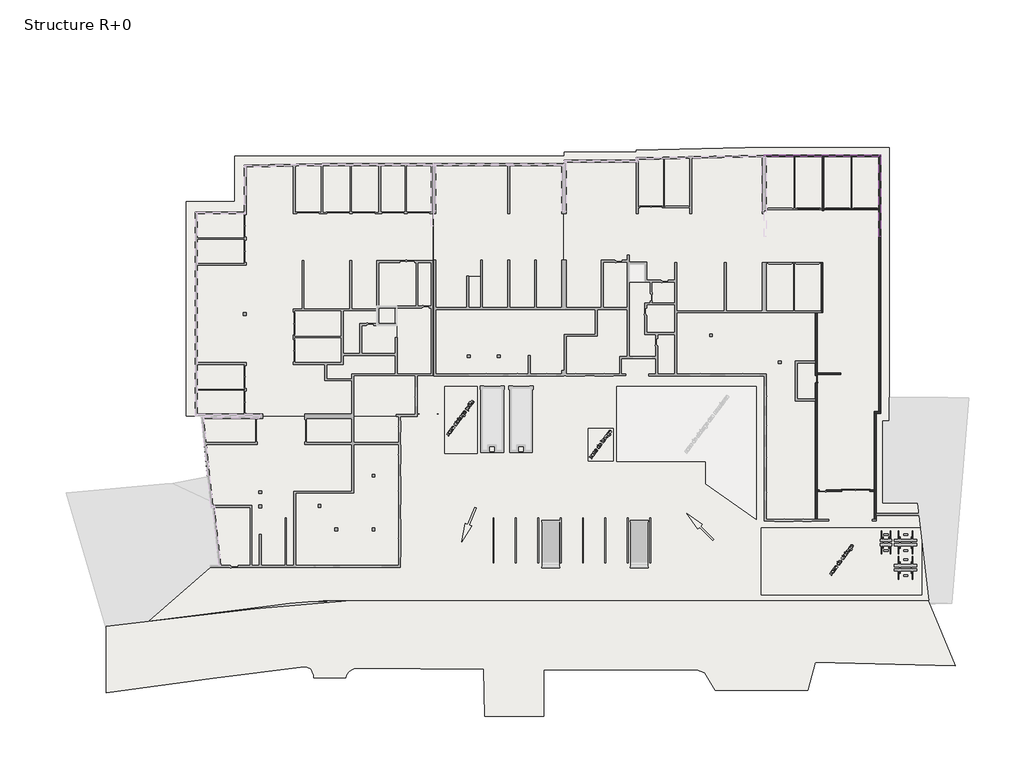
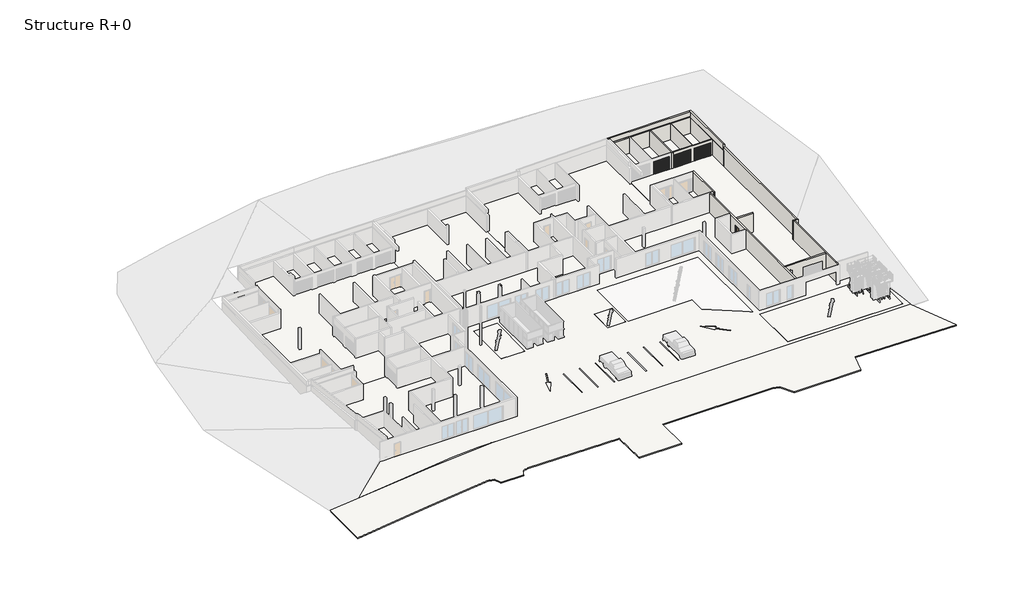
# One storey, part 5 of 8: 16 slabs, 14 walls, 4 doors.
"""IFC4 building model written with IfcOpenShell, lengths in millimetres."""

from ifc_helpers import new_model, si_unit, point, frame, frame_2d, origin, origin_with_axes, place, context, project, spatial, polyline, circle_curve, trimmed, segment, composite_curve, outline, extrude, faceted_brep, transform, mapped, element, save
from ifc_brep_helpers import plane_surface, cylinder_surface, revolved_surface, advanced_brep
from components import door_2_4m_x_2m_ca442cef, hb_simple_830_x_2040_mm_5aab85cf

model = new_model("IFC4")

# Units and contexts
model_context = context("Model", 3, world=origin())
ifc_project = project(units=[si_unit("LENGTHUNIT", "METRE", prefix="MILLI")], contexts=[model_context])

# Site, building, storey
site = spatial("IfcSite", under=ifc_project)
building = spatial("IfcBuilding", under=site)
storey = spatial("IfcBuildingStorey", under=building, Name="Structure R+0", Elevation=0.0)

# Doors
placement = place(None, origin())
door_2_4m_x_2m_shape = door_2_4m_x_2m_ca442cef(model_context)
element("IfcDoor", 1, ObjectType="Garage basculante : 2.4m x 2m", at=placement, inside=storey, context=model_context, shape_type="MappedRepresentation", body=[
    mapped(door_2_4m_x_2m_shape, transform((67185.0379909, 31982.2354102, 0.0), x_axis=(-1.0, 0.0, 0.0), y_axis=(0.0, -1.0, 0.0), z_axis=(0.0, 0.0, 1.0))),
])
element("IfcDoor", 2, ObjectType="Garage basculante : 2.4m x 2m", at=placement, inside=storey, context=model_context, shape_type="MappedRepresentation", body=[
    mapped(door_2_4m_x_2m_shape, transform((70159.5680431, 31982.2354102, 0.0), x_axis=(-1.0, 0.0, 0.0), y_axis=(0.0, -1.0, 0.0), z_axis=(0.0, 0.0, 1.0))),
])
element("IfcDoor", 3, ObjectType="Garage basculante : 2.4m x 2m", at=placement, inside=storey, context=model_context, shape_type="MappedRepresentation", body=[
    mapped(door_2_4m_x_2m_shape, transform((64052.7977519, 31982.2354102, 0.0), x_axis=(-1.0, 0.0, 0.0), y_axis=(0.0, -1.0, 0.0), z_axis=(0.0, 0.0, 1.0))),
])
hb_simple_830_x_2040_mm_shape = hb_simple_830_x_2040_mm_5aab85cf(model_context)
element("IfcDoor", 4, ObjectType="HB-Simple : 830 x 2040 mm", at=placement, inside=storey, context=model_context, shape_type="MappedRepresentation", body=[
    mapped(hb_simple_830_x_2040_mm_shape, transform((64912.3933514, 14061.6841597, 0.0), x_axis=(0.0, 1.0, 0.0), y_axis=(-1.0, 0.0, 0.0), z_axis=(0.0, 0.0, 1.0))),
])

# Slabs
element("IfcSlab", 5, ObjectType="Terre-plein Béton - 1", at=placement, inside=storey, context=model_context, shape_type="AdvancedBrep", body=[
    advanced_brep(
    [(-1045.6878974, 10125.4652425, -10.0), (-2683.0020232, 10125.4652425, -10.0), (-2683.0020232, 33132.4734178, -10.0), (2556.9078335, 33132.4734178, -10.0), (2556.9078335, 38014.9531321, -10.0), (37857.1696751, 38014.9531321, -10.0), (37857.1696751, 38419.915437, -10.0), (45579.8951342, 38419.915437, -10.0), (45579.8951342, 38681.4180541, -10.0), (57286.9614412, 38925.8125552, -10.0), (72718.498036, 38925.8125552, -10.0), (72718.498036, 9594.8529282, -10.0), (72017.0236897, 9594.8529282, -10.0), (72017.0236897, 831.008028, -10.0), (75763.9236591, 831.008028, -10.0), (77043.7192501, -9697.3958204, -10.0), (27043.7192501, -9697.3958204, -10.0), (18737.2090131, -9739.2310719, -10.0), (14472.6393717, -9716.4279563, -10.0), (6409.3035441, -10217.221694, -10.0), (-6711.7369842, -11924.6613357, -10.0), (-84.079262, -6105.1620119, -10.0), (840.2479411, -6105.1620119, -10.0), (162.7145278, 341.1378118, -10.0), (-17.3136452, 341.1378118, -10.0), (19929.9333488, 21916.9971343, -10.0), (17765.1211572, 21916.9971343, -10.0), (17765.1211572, 19864.6534315, -10.0), (19929.9333488, 19864.6534315, -10.0), (46707.3903862, 26657.7796483, -10.0), (44657.2462422, 26657.7796483, -10.0), (44657.2462422, 24500.9913711, -10.0), (46707.3903862, 24500.9913711, -10.0), (-2683.0020232, 10125.4652425, 0.0), (-1045.6878974, 10125.4652425, 0.0), (-17.3136452, 341.1378118, 0.0), (162.7145278, 341.1378118, 0.0), (840.2479411, -6105.1620119, 0.0), (-84.079262, -6105.1620119, 0.0), (-6711.7369842, -11924.6613357, 0.0), (6409.3035441, -10217.221694, 0.0), (14472.6393717, -9716.4279563, 0.0), (18737.2090131, -9739.2310719, 0.0), (27043.7192501, -9697.3958204, 0.0), (77043.7192501, -9697.3958204, 0.0), (75763.9236591, 831.008028, 0.0), (72017.0236897, 831.008028, 0.0), (72017.0236897, 9594.8529282, 0.0), (72718.498036, 9594.8529282, 0.0), (72718.498036, 38925.8125552, 0.0), (57286.9614412, 38925.8125552, 0.0), (45579.8951342, 38681.4180541, 0.0), (45579.8951342, 38419.915437, 0.0), (37857.1696751, 38419.915437, 0.0), (37857.1696751, 38014.9531321, 0.0), (2556.9078335, 38014.9531321, 0.0), (2556.9078335, 33132.4734178, 0.0), (-2683.0020232, 33132.4734178, 0.0), (17765.1211572, 21916.9971343, 0.0), (19929.9333488, 21916.9971343, 0.0), (19929.9333488, 19864.6534315, 0.0), (17765.1211572, 19864.6534315, 0.0), (44657.2462422, 26657.7796483, 0.0), (46707.3903862, 26657.7796483, 0.0), (46707.3903862, 24500.9913711, 0.0), (44657.2462422, 24500.9913711, 0.0), (53910.1525664, -3108.4923989, 0.0), (53804.0865493, -3214.5584161, 0.0), (52389.8729869, -1800.3448537, 0.0), (52195.4186221, -1994.7992185, 0.0), (51028.6924331, -333.0982828, 0.0), (52690.3933689, -1499.8244717, 0.0), (52495.9390041, -1694.2788365, 0.0), (28289.53833, 346.707055, 0.0), (28428.6159081, 290.516066, 0.0), (27679.4027213, -1563.8516431, 0.0), (27934.3782813, -1666.8684563, 0.0), (26860.6507454, -3390.1238577, 0.0), (27285.3495831, -1404.6438409, 0.0), (27540.3251431, -1507.6606541, 0.0), (53804.0865493, -3214.5584161, -2.0), (53910.1525664, -3108.4923989, -2.0), (52495.9390041, -1694.2788365, -2.0), (52690.3933689, -1499.8244717, -2.0), (51028.6924331, -333.0982828, -2.0), (52195.4186221, -1994.7992185, -2.0), (52389.8729869, -1800.3448537, -2.0), (28428.6159081, 290.516066, -2.0), (28289.53833, 346.707055, -2.0), (27540.3251431, -1507.6606541, -2.0), (27285.3495831, -1404.6438409, -2.0), (26860.6507454, -3390.1238577, -2.0), (27934.3782813, -1666.8684563, -2.0), (27679.4027213, -1563.8516431, -2.0)],
    [
        (0, 1),
        (1, 2),
        (2, 3),
        (3, 4),
        (4, 5),
        (5, 6),
        (6, 7),
        (7, 8),
        (8, 9),
        (9, 10),
        (10, 11),
        (11, 12),
        (12, 13),
        (13, 14),
        (14, 15),
        (15, 16),
        (16, 17, circle_curve(frame((20876.0217472, 390255.0507373, -10.0), z_axis=(0.0, 0.0, -1.0), x_axis=(1.0, 0.0, 0.0)), 400000.0)),
        (17, 18),
        (18, 19, circle_curve(frame((14151.8174615, -69715.5702277, -10.0), z_axis=(0.0, 0.0, 1.0), x_axis=(1.0, 0.0, 0.0)), 60000.0)),
        (19, 20),
        (20, 21),
        (21, 22),
        (22, 23),
        (23, 24),
        (24, 0),
        (25, 26),
        (26, 27),
        (27, 28),
        (28, 25),
        (29, 30),
        (30, 31),
        (31, 32),
        (32, 29),
        (33, 34),
        (34, 35),
        (35, 36),
        (36, 37),
        (37, 38),
        (38, 39),
        (39, 40),
        (40, 41, circle_curve(frame((14151.8174615, -69715.5702277, 0.0), z_axis=(0.0, 0.0, -1.0), x_axis=(1.0, 0.0, 0.0)), 60000.0)),
        (41, 42),
        (42, 43, circle_curve(frame((20876.0217472, 390255.0507373, 0.0), z_axis=(0.0, 0.0, 1.0), x_axis=(1.0, 0.0, 0.0)), 400000.0)),
        (43, 44),
        (44, 45),
        (45, 46),
        (46, 47),
        (47, 48),
        (48, 49),
        (49, 50),
        (50, 51),
        (51, 52),
        (52, 53),
        (53, 54),
        (54, 55),
        (55, 56),
        (56, 57),
        (57, 33),
        (58, 59),
        (59, 60),
        (60, 61),
        (61, 58),
        (62, 63),
        (63, 64),
        (64, 65),
        (65, 62),
        (66, 67),
        (67, 68),
        (68, 69),
        (69, 70),
        (70, 71),
        (71, 72),
        (72, 66),
        (73, 74),
        (74, 75),
        (75, 76),
        (76, 77),
        (77, 78),
        (78, 79),
        (79, 73),
        (0, 34),
        (33, 1),
        (57, 2),
        (56, 3),
        (55, 4),
        (54, 5),
        (53, 6),
        (52, 7),
        (8, 51),
        (50, 9),
        (49, 10),
        (48, 11),
        (47, 12),
        (46, 13),
        (45, 14),
        (44, 15),
        (43, 16),
        (42, 17),
        (41, 18),
        (40, 19),
        (39, 20),
        (38, 21),
        (37, 22),
        (36, 23),
        (35, 24),
        (25, 59),
        (58, 26),
        (61, 27),
        (60, 28),
        (29, 63),
        (62, 30),
        (65, 31),
        (64, 32),
        (80, 81),
        (81, 82),
        (82, 83),
        (83, 84),
        (84, 85),
        (85, 86),
        (86, 80),
        (80, 67),
        (66, 81),
        (72, 82),
        (71, 83),
        (70, 84),
        (69, 85),
        (68, 86),
        (87, 88),
        (88, 89),
        (89, 90),
        (90, 91),
        (91, 92),
        (92, 93),
        (93, 87),
        (87, 74),
        (73, 88),
        (79, 89),
        (78, 90),
        (77, 91),
        (76, 92),
        (75, 93),
    ],
    [
        plane_surface(frame((-1683.0020232, 10125.4652425, -10.0), z_axis=(0.0, 0.0, -1.0), x_axis=(-1.0, 0.0, 0.0))),
        plane_surface(frame((-1683.0020232, 10125.4652425, 0.0), z_axis=(0.0, 0.0, 1.0), x_axis=(1.0, 0.0, 0.0))),
        plane_surface(frame((-1045.6878974, 10125.4652425, -10.0), z_axis=(0.0, -1.0, 0.0), x_axis=(0.0, 0.0, 1.0))),
        plane_surface(frame((-2683.0020232, 10125.4652425, -10.0), z_axis=(-1.0, 0.0, 0.0), x_axis=(0.0, 0.0, 1.0))),
        plane_surface(frame((-2683.0020232, 33132.4734178, -10.0), z_axis=(0.0, 1.0, 0.0), x_axis=(0.0, 0.0, 1.0))),
        plane_surface(frame((2556.9078335, 33132.4734178, -10.0), z_axis=(-1.0, 0.0, 0.0), x_axis=(0.0, 0.0, 1.0))),
        plane_surface(frame((2556.9078335, 38014.9531321, -10.0), z_axis=(0.0, 1.0, 0.0), x_axis=(0.0, 0.0, 1.0))),
        plane_surface(frame((37857.1696751, 38014.9531321, -10.0), z_axis=(-1.0, 0.0, 0.0), x_axis=(0.0, 0.0, 1.0))),
        plane_surface(frame((37857.1696751, 38419.915437, -10.0), z_axis=(0.0, 1.0, 0.0), x_axis=(0.0, 0.0, 1.0))),
        plane_surface(frame((45579.8951342, 38681.4180541, -10.0), z_axis=(-0.020871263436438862, 0.9997821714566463, 0.0), x_axis=(0.0, 0.0, 1.0))),
        plane_surface(frame((57286.9614412, 38925.8125552, -10.0), z_axis=(0.0, 1.0, 0.0), x_axis=(0.0, 0.0, 1.0))),
        plane_surface(frame((72718.498036, 38925.8125552, -10.0), z_axis=(1.0, 0.0, 0.0), x_axis=(0.0, 0.0, 1.0))),
        plane_surface(frame((72718.498036, 9594.8529282, -10.0), z_axis=(0.0, -1.0, 0.0), x_axis=(0.0, 0.0, 1.0))),
        plane_surface(frame((72017.0236897, 9594.8529282, -10.0), z_axis=(1.0, 0.0, 0.0), x_axis=(0.0, 0.0, 1.0))),
        plane_surface(frame((72017.0236897, 831.008028, -10.0), z_axis=(0.0, 1.0, 0.0), x_axis=(0.0, 0.0, 1.0))),
        plane_surface(frame((75763.9236591, 831.008028, -10.0), z_axis=(0.9926928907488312, 0.12066824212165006, 0.0), x_axis=(0.0, 0.0, 1.0))),
        plane_surface(frame((77043.7192501, -9697.3958204, -10.0), z_axis=(0.0, -1.0, 0.0), x_axis=(0.0, 0.0, 1.0))),
        cylinder_surface(frame((20876.0217472, 390255.0507373, 0.0), z_axis=(0.0, 0.0, -1.0), x_axis=(1.0, 0.0, 0.0)), 400000.0),
        plane_surface(frame((18737.2090131, -9739.2310719, -10.0), z_axis=(-0.005347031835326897, -0.9999857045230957, 0.0), x_axis=(0.0, 0.0, 1.0))),
        revolved_surface(polyline([(74151.8174615, -69715.5702277, 0.0), (74151.8174615, -69715.5702277, -10.0)]), (14151.8174615, -69715.5702277, 0.0), (0.0, 0.0, 1.0)),
        plane_surface(frame((6409.3035441, -10217.221694, -10.0), z_axis=(0.12904189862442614, -0.9916391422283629, 0.0), x_axis=(0.0, 0.0, 1.0))),
        plane_surface(frame((-6711.7369842, -11924.6613357, -10.0), z_axis=(-0.6598070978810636, 0.7514350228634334, 0.0), x_axis=(0.0, 0.0, 1.0))),
        plane_surface(frame((-84.079262, -6105.1620119, -10.0), z_axis=(0.0, 1.0, 0.0), x_axis=(0.0, 0.0, 1.0))),
        plane_surface(frame((840.2479411, -6105.1620119, -10.0), z_axis=(-0.9945218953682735, -0.10452846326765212, 0.0), x_axis=(0.0, 0.0, 1.0))),
        plane_surface(frame((162.7145278, 341.1378118, -10.0), z_axis=(0.0, -1.0, 0.0), x_axis=(0.0, 0.0, 1.0))),
        plane_surface(frame((-17.3136452, 341.1378118, -10.0), z_axis=(-0.9945218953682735, -0.10452846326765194, 0.0), x_axis=(0.0, 0.0, 1.0))),
        plane_surface(frame((19929.9333488, 21916.9971343, -10.0), z_axis=(0.0, -1.0, 0.0), x_axis=(0.0, 0.0, 1.0))),
        plane_surface(frame((17765.1211572, 21916.9971343, -10.0), z_axis=(1.0, 0.0, 0.0), x_axis=(0.0, 0.0, 1.0))),
        plane_surface(frame((17765.1211572, 19864.6534315, -10.0), z_axis=(0.0, 1.0, 0.0), x_axis=(0.0, 0.0, 1.0))),
        plane_surface(frame((19929.9333488, 19864.6534315, -10.0), z_axis=(-1.0, 0.0, 0.0), x_axis=(0.0, 0.0, 1.0))),
        plane_surface(frame((46707.3903862, 26657.7796483, -10.0), z_axis=(0.0, -1.0, 0.0), x_axis=(0.0, 0.0, 1.0))),
        plane_surface(frame((44657.2462422, 26657.7796483, -10.0), z_axis=(1.0, 0.0, 0.0), x_axis=(0.0, 0.0, 1.0))),
        plane_surface(frame((44657.2462422, 24500.9913711, -10.0), z_axis=(0.0, 1.0, 0.0), x_axis=(0.0, 0.0, 1.0))),
        plane_surface(frame((46707.3903862, 24500.9913711, -10.0), z_axis=(-1.0, 0.0, 0.0), x_axis=(0.0, 0.0, 1.0))),
        plane_surface(frame((45579.8951342, 38419.915437, -10.0), z_axis=(-1.0, 0.0, 0.0), x_axis=(0.0, 0.0, 1.0))),
        plane_surface(frame((53857.1195579, -3161.5254075, -2.0), z_axis=(0.0, 0.0, 1.0), x_axis=(-0.7071067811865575, -0.7071067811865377, 0.0))),
        plane_surface(frame((53804.0865493, -3214.5584161, 0.0), z_axis=(-0.7071067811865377, 0.7071067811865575, 0.0), x_axis=(0.0, 0.0, -1.0))),
        plane_surface(frame((53910.1525664, -3108.4923989, 0.0), z_axis=(-0.707106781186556, -0.7071067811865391, 0.0), x_axis=(0.0, 0.0, -1.0))),
        plane_surface(frame((52495.9390041, -1694.2788365, 0.0), z_axis=(-0.7071067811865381, 0.707106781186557, 0.0), x_axis=(0.0, 0.0, -1.0))),
        plane_surface(frame((52690.3933689, -1499.8244717, 0.0), z_axis=(-0.5746304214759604, -0.8184130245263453, 0.0), x_axis=(0.0, 0.0, -1.0))),
        plane_surface(frame((51028.6924331, -333.0982828, 0.0), z_axis=(0.8184130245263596, 0.5746304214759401, 0.0), x_axis=(0.0, 0.0, -1.0))),
        plane_surface(frame((52195.4186221, -1994.7992185, 0.0), z_axis=(-0.7071067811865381, 0.707106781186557, 0.0), x_axis=(0.0, 0.0, -1.0))),
        plane_surface(frame((52389.8729869, -1800.3448537, 0.0), z_axis=(0.707106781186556, 0.7071067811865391, 0.0), x_axis=(0.0, 0.0, -1.0))),
        plane_surface(frame((28359.0771191, 318.6115605, -2.0), z_axis=(0.0, 0.0, 1.0), x_axis=(0.9271838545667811, -0.3746065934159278, 0.0))),
        plane_surface(frame((28428.6159081, 290.516066, 0.0), z_axis=(-0.3746065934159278, -0.9271838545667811, 0.0), x_axis=(0.0, 0.0, -1.0))),
        plane_surface(frame((28289.53833, 346.707055, 0.0), z_axis=(0.9271838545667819, -0.37460659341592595, 0.0), x_axis=(0.0, 0.0, -1.0))),
        plane_surface(frame((27540.3251431, -1507.6606541, 0.0), z_axis=(-0.37460659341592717, -0.9271838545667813, 0.0), x_axis=(0.0, 0.0, -1.0))),
        plane_surface(frame((27285.3495831, -1404.6438409, 0.0), z_axis=(0.9778791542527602, -0.20917064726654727, 0.0), x_axis=(0.0, 0.0, -1.0))),
        plane_surface(frame((26860.6507454, -3390.1238577, 0.0), z_axis=(-0.8487295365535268, 0.5288271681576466, 0.0), x_axis=(0.0, 0.0, -1.0))),
        plane_surface(frame((27934.3782813, -1666.8684563, 0.0), z_axis=(-0.37460659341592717, -0.9271838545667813, 0.0), x_axis=(0.0, 0.0, -1.0))),
        plane_surface(frame((27679.4027213, -1563.8516431, 0.0), z_axis=(-0.9271838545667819, 0.37460659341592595, 0.0), x_axis=(0.0, 0.0, -1.0))),
    ],
    [
        (0, [[1, 2, 3, 4, 5, 6, 7, 8, 9, 10, 11, 12, 13, 14, 15, 16, 17, 18, 19, 20, 21, 22, 23, 24, 25], [26, 27, 28, 29], [30, 31, 32, 33]]),
        (1, [[34, 35, 36, 37, 38, 39, 40, 41, 42, 43, 44, 45, 46, 47, 48, 49, 50, 51, 52, 53, 54, 55, 56, 57, 58], [59, 60, 61, 62], [63, 64, 65, 66], [67, 68, 69, 70, 71, 72, 73], [74, 75, 76, 77, 78, 79, 80]]),
        (2, [[-1, 81, -34, 82]]),
        (3, [[-2, -82, -58, 83]]),
        (4, [[-3, -83, -57, 84]]),
        (5, [[-4, -84, -56, 85]]),
        (6, [[-5, -85, -55, 86]]),
        (7, [[-6, -86, -54, 87]]),
        (8, [[-7, -87, -53, 88]]),
        (9, [[-9, 89, -51, 90]]),
        (10, [[-10, -90, -50, 91]]),
        (11, [[-11, -91, -49, 92]]),
        (12, [[-12, -92, -48, 93]]),
        (13, [[-13, -93, -47, 94]]),
        (14, [[-14, -94, -46, 95]]),
        (15, [[-15, -95, -45, 96]]),
        (16, [[-16, -96, -44, 97]]),
        (17, [[-17, -97, -43, 98]]),
        (18, [[-18, -98, -42, 99]]),
        (19, [[-19, -99, -41, 100]]),
        (20, [[-20, -100, -40, 101]]),
        (21, [[-21, -101, -39, 102]]),
        (22, [[-22, -102, -38, 103]]),
        (23, [[-23, -103, -37, 104]]),
        (24, [[-24, -104, -36, 105]]),
        (25, [[-25, -105, -35, -81]]),
        (26, [[-26, 106, -59, 107]]),
        (27, [[-27, -107, -62, 108]]),
        (28, [[-28, -108, -61, 109]]),
        (29, [[-29, -109, -60, -106]]),
        (30, [[-30, 110, -63, 111]]),
        (31, [[-31, -111, -66, 112]]),
        (32, [[-32, -112, -65, 113]]),
        (33, [[-33, -113, -64, -110]]),
        (34, [[-8, -88, -52, -89]]),
        (35, [[114, 115, 116, 117, 118, 119, 120]]),
        (36, [[-114, 121, -67, 122]]),
        (37, [[-115, -122, -73, 123]]),
        (38, [[-116, -123, -72, 124]]),
        (39, [[-117, -124, -71, 125]]),
        (40, [[-118, -125, -70, 126]]),
        (41, [[-119, -126, -69, 127]]),
        (42, [[-120, -127, -68, -121]]),
        (43, [[128, 129, 130, 131, 132, 133, 134]]),
        (44, [[-128, 135, -74, 136]]),
        (45, [[-129, -136, -80, 137]]),
        (46, [[-130, -137, -79, 138]]),
        (47, [[-131, -138, -78, 139]]),
        (48, [[-132, -139, -77, 140]]),
        (49, [[-133, -140, -76, 141]]),
        (50, [[-134, -141, -75, -135]]),
    ],
),
])
element("IfcSlab", 6, ObjectType="Dalle en béton - 180 mm", at=placement, inside=storey, context=model_context, shape_type="SweptSolid", body=[
    extrude(outline(polyline([(32028.7587922, 37002.4079561), (37608.398272, 37002.4079561), (37608.398272, 31857.8211921), (37788.398272, 31857.8211921), (37788.398272, 26857.8211921), (37608.398272, 26857.8211921), (37608.398272, 21772.7235205), (34893.7772107, 21772.7235205), (34893.7772107, 26872.7235205), (34693.7772107, 26872.7235205), (34693.7772107, 21772.7235205), (32028.7712439, 21772.7235205), (32028.7712439, 26892.7235205), (31828.7712439, 26892.7235205), (31828.7712439, 21772.7235205), (29098.2960148, 21772.7235205), (29098.2960148, 26872.7235205), (28906.926938, 26872.7235205), (28906.926938, 25172.7235205), (27426.926938, 25172.7235205), (27426.926938, 21772.7235205), (24079.3002373, 21772.7235205), (24079.3002373, 26864.9130524), (23879.4832806, 26864.9130524), (23879.4832806, 31844.9130524), (24079.4832806, 31844.9130524), (24079.4832806, 37002.4079561), (31828.7587922, 37002.4079561), (31828.7587922, 31857.8938935), (32028.7587922, 31857.8938935), (32028.7587922, 37002.4079561)])), frame((0.0, 0.0, -180.0), z_axis=(0.0, 0.0, 1.0), x_axis=(1.0, 0.0, 0.0)), (0.0, 0.0, 1.0), 180.0),
])
element("IfcSlab", 7, ObjectType="Dalle en béton - 180 mm", at=placement, inside=storey, context=model_context, shape_type="SweptSolid", body=[
    extrude(outline(polyline([(18199.2548774, 37002.4079561), (23603.2655761, 37002.4079561), (23603.2655761, 31942.4079561), (23803.2655761, 31942.4079561), (23803.2655761, 31807.8463688), (23803.2655761, 26787.8872551), (21913.9631975, 26787.8872551), (21913.9631975, 26587.8872551), (21995.0786989, 26587.8872551), (21995.0786989, 21916.9971343), (17965.0880762, 21916.9971343), (17965.0880762, 26587.8950404), (20203.9658901, 26587.8950404), (20203.9658901, 26787.8872551), (17765.0880762, 26787.8872551), (17765.0880762, 21625.9455164), (15093.9907355, 21625.9455164), (15093.9907355, 26785.8625842), (14893.9907355, 26785.8625842), (14893.9907355, 21625.8625842), (9958.0983694, 21625.8625842), (9958.0983694, 26785.9455164), (9761.4301413, 26785.9455164), (9761.4301413, 21625.9455164), (8901.4301413, 21625.9455164), (8901.4301413, 21425.8625842), (13964.9548931, 21425.8625842), (13964.9548931, 15849.6332906), (8889.3203129, 15849.6332906), (8889.3203129, 15649.6332906), (12209.3203129, 15649.6332906), (12209.3203129, 13917.7151113), (15109.3203129, 13917.7151113), (15109.3203129, 10325.4117008), (10058.3074148, 10325.4117008), (10058.3074148, 10145.4652425), (5558.3074148, 10145.4652425), (5558.3074148, 10325.4652425), (-1483.0020232, 10325.4652425), (-1483.0020232, 15649.6332908), (3656.9078323, 15649.6332908), (3656.9078323, 15849.6332908), (-1483.0020232, 15849.6332908), (-1483.0020232, 26308.0923089), (3656.9078335, 26308.0923089), (3656.9078335, 26508.0923089), (-1483.0020232, 26508.0923089), (-1483.0020232, 31828.092309), (3756.9078335, 31828.092309), (3756.9078335, 36840.1745184), (8817.5131269, 36940.9310569), (8817.5131269, 31942.4079561), (9017.5131269, 31942.4079561), (9017.5131269, 36944.9130524), (11803.2321127, 37000.3766553), (11803.2321127, 31942.4079561), (12003.2321127, 31942.4079561), (12003.2321127, 37002.4079561), (17999.2548774, 37002.4079561), (17999.2548774, 31942.4079561), (18199.2548774, 31942.4079561), (18199.2548774, 37002.4079561)])), frame((0.0, 0.0, -180.0), z_axis=(0.0, 0.0, 1.0), x_axis=(1.0, 0.0, 0.0)), (0.0, 0.0, 1.0), 180.0),
])
element("IfcSlab", 8, ObjectType="Dalle en béton - 180 mm", at=placement, inside=storey, context=model_context, shape_type="SweptSolid", body=[
    extrude(outline(polyline([(5558.3074148, 9865.4625547), (5558.3074148, 10068.5535935), (10049.1685522, 10068.5535935), (10049.1685522, 9868.5535935), (15109.1685522, 9868.5535935), (15109.1685522, 7268.5535935), (10159.7679812, 7268.5535935), (10159.7679812, 7068.553593), (15109.3203129, 7068.553593), (15109.3203129, 2054.6479064), (8879.0548308, 2054.6479064), (8879.0548308, -5905.1620119), (5382.6096912, -5905.1620119), (5382.6096912, -2585.6481556), (5182.6096912, -2585.6481556), (5182.6096912, -5905.1620119), (4382.6863548, -5905.1620119), (4382.6863548, 541.1378118), (187.4324328, 504.7854609), (-523.2918803, 7068.5535935), (4872.6746666, 7068.5535935), (4872.6746666, 7281.5130117), (-527.3253334, 7281.5130117), (-817.2588578, 9865.4625547), (5558.3074148, 9865.4625547)])), frame((0.0, 0.0, -180.0), z_axis=(0.0, 0.0, 1.0), x_axis=(1.0, 0.0, 0.0)), (0.0, 0.0, 1.0), 180.0),
])
element("IfcSlab", 9, ObjectType="Dalle en béton - 180 mm", at=placement, inside=storey, context=model_context, shape_type="SweptSolid", body=[
    extrude(outline(polyline([(4182.6863548, 341.1378118), (4182.6863548, -5905.1620119), (2929.6863548, -5905.1620119), (2929.6863548, -6105.6481556), (2029.6863548, -6105.6481556), (2029.6863548, -5905.1620119), (1051.5537078, -5905.1620119), (403.4202137, 341.1378118), (4182.6863548, 341.1378118)])), frame((0.0, 0.0, -180.0), z_axis=(0.0, 0.0, 1.0), x_axis=(1.0, 0.0, 0.0)), (0.0, 0.0, 1.0), 180.0),
])
element("IfcSlab", 10, ObjectType="Dalle en béton - 12 + 6 RS commun", at=placement, inside=storey, context=model_context, shape_type="SweptSolid", body=[
    extrude(outline(polyline([(20115.920738, -5905.1620119), (9088.4281775, -5905.1620119), (9088.4281775, 1868.5535935), (15309.3203129, 1868.5535935), (15309.3203129, 7068.5535935), (20115.920738, 7068.5535935), (20115.920738, -5905.1620119)])), frame((0.0, 0.0, -180.0), z_axis=(0.0, 0.0, 1.0), x_axis=(1.0, 0.0, 0.0)), (0.0, 0.0, 1.0), 180.0),
])
element("IfcSlab", 11, ObjectType="Dalle en béton - 12 + 6 RS commun", at=placement, inside=storey, context=model_context, shape_type="SweptSolid", body=[
    extrude(outline(polyline([(15309.3203129, 7268.553593), (15309.3203129, 10065.4625547), (20115.920738, 10065.4625547), (20115.920738, 7268.553593), (15309.3203129, 7268.553593)])), frame((0.0, 0.0, -180.0), z_axis=(0.0, 0.0, 1.0), x_axis=(1.0, 0.0, 0.0)), (0.0, 0.0, 1.0), 180.0),
])
element("IfcSlab", 12, ObjectType="Dalle en béton - 12 + 6 RS commun", at=placement, inside=storey, context=model_context, shape_type="SweptSolid", body=[
    extrude(outline(polyline([(21968.3655313, 14457.8960617), (21968.3655313, 10305.4117008), (19872.9268439, 10305.4117008), (19872.9268439, 10105.4117008), (15309.3203129, 10105.4117008), (15309.3203129, 14457.8960617), (21968.3655313, 14457.8960617)])), frame((0.0, 0.0, -180.0), z_axis=(0.0, 0.0, 1.0), x_axis=(1.0, 0.0, 0.0)), (0.0, 0.0, 1.0), 180.0),
])
element("IfcSlab", 13, ObjectType="Dalle en béton - 12 + 6 RS commun", at=placement, inside=storey, context=model_context, shape_type="SweptSolid", body=[
    extrude(outline(polyline([(23603.2655761, 26587.8872551), (23603.2655761, 21916.9971343), (23453.2655761, 21916.9971343), (23453.2655761, 21716.9971343), (23603.2655761, 21716.9971343), (23603.2655761, 14657.8960617), (19949.9321418, 14657.8960617), (19949.9321418, 18528.0946332), (19749.9321418, 18528.0946332), (19749.9321418, 19864.6534315), (19909.9333487, 19864.6534315), (19909.9333487, 20064.656124), (19729.9333488, 20064.656124), (19729.9333488, 21716.9971343), (22553.2655761, 21716.9971343), (22553.2655761, 21916.9971343), (22195.0784755, 21916.9971343), (22195.0784755, 26587.8872551), (23603.2655761, 26587.8872551)])), frame((0.0, 0.0, -180.0), z_axis=(0.0, 0.0, 1.0), x_axis=(1.0, 0.0, 0.0)), (0.0, 0.0, 1.0), 180.0),
])
element("IfcSlab", 14, ObjectType="Dalle en béton - 160 mm", at=placement, inside=storey, context=model_context, shape_type="SweptSolid", body=[
    extrude(outline(polyline([(20129.9333488, 22116.9971343), (20129.9333488, 19664.6534315), (17565.1211572, 19664.6534315), (17565.1211572, 22116.9971343), (20129.9333488, 22116.9971343)])), frame((0.0, 0.0, -1560.0), z_axis=(0.0, 0.0, 1.0), x_axis=(1.0, 0.0, 0.0)), (0.0, 0.0, 1.0), 160.0),
])
element("IfcSlab", 15, ObjectType="Dalle en béton - 12 + 6 RS commun", at=placement, inside=storey, context=model_context, shape_type="SweptSolid", body=[
    extrude(outline(polyline([(17764.9548931, 21425.8625842), (17764.9548931, 20065.8625842), (17495.0880762, 20065.8625842), (17495.0880762, 19864.656124), (19929.9333487, 19864.656124), (19929.9333487, 18528.0946332), (19749.9321418, 18528.0946332), (19749.9321418, 16844.6101745), (16166.2503534, 16844.6101745), (16166.2503534, 19864.656124), (16596.2503534, 19864.656124), (16596.2503534, 20064.656124), (15966.2503534, 20064.656124), (15966.2503534, 16841.0290332), (14164.9548931, 16841.0290332), (14164.9548931, 21425.8625842), (17764.9548931, 21425.8625842)])), frame((0.0, 0.0, -180.0), z_axis=(0.0, 0.0, 1.0), x_axis=(1.0, 0.0, 0.0)), (0.0, 0.0, 1.0), 180.0),
])
element("IfcSlab", 16, ObjectType="Terre-plein Béton - 1", at=placement, inside=storey, context=model_context, shape_type="SweptSolid", body=[
    extrude(outline(polyline([(19909.9333487, 21916.9971343), (19909.9333487, 19864.6534315), (17765.1211572, 19864.6534315), (17765.1211572, 21916.9971343), (19909.9333487, 21916.9971343)])), frame((0.0, 0.0, -1570.0), z_axis=(0.0, 0.0, 1.0), x_axis=(1.0, 0.0, 0.0)), (0.0, 0.0, 1.0), 10.0),
])
element("IfcSlab", 17, ObjectType="zone lavage", at=placement, inside=storey, context=model_context, shape_type="SweptSolid", body=[
    extrude(outline(polyline([(43149.3270626, 8820.1704909), (43149.3270626, 5335.3020812), (40449.3270626, 5335.3020812), (40449.3270626, 8820.1704909), (43149.3270626, 8820.1704909)])), origin_with_axes(), (0.0, 0.0, 1.0), 10.0),
])
element("IfcSlab", 18, ObjectType="zone stokage matériel", at=placement, inside=storey, context=model_context, shape_type="SweptSolid", body=[
    extrude(outline(polyline([(76198.5820737, -1857.9311828), (76198.5820737, -9057.9311828), (58998.5820737, -9057.9311828), (58998.5820737, -1857.9311828), (76198.5820737, -1857.9311828)])), origin_with_axes(), (0.0, 0.0, 1.0), 10.0),
])
element("IfcSlab", 19, ObjectType="zone stokage matériel", at=placement, inside=storey, context=model_context, shape_type="SweptSolid", body=[
    extrude(outline(polyline([(25051.6949848, 13320.5563519), (28551.6949848, 13320.5563519), (28551.6949848, 6120.5563519), (25051.6949848, 6120.5563519), (25051.6949848, 13320.5563519)])), origin_with_axes(), (0.0, 0.0, 1.0), 10.0),
])
element("IfcSlab", 20, ObjectType="route", at=placement, inside=storey, context=model_context, shape_type="SweptSolid", body=[
    extrude(outline(composite_curve([segment(polyline([(190.0148112, -18036.7568157), (-11209.4115826, -19566.9338881), (-11209.4115826, -12453.8971895), (12043.7192501, -9697.3958204), (27043.7192501, -9697.3958204), (76907.5268727, -9697.3958204), (79808.3434011, -16664.6674472), (64812.2458389, -16322.5301874), (64012.470971, -19307.3306288), (54082.279149, -19307.3306288), (52968.3065052, -17413.3343291), (52062.142352, -17083.51755), (35662.142352, -17083.51755), (35662.142352, -22083.51755), (29362.142352, -22083.51755), (29238.9898613, -17060.8063522), (15665.5397715, -16923.0870681)]), True, "CONTINUOUS"), segment(trimmed(circle_curve(frame_2d((15693.5417551, -18175.578542)), 1252.8044553), [point((15665.5397715, -16923.0870681))], [point((14455.9669277, -17980.8285743))], True, "CARTESIAN"), True, "CONTINUOUS"), segment(polyline([(14455.9669277, -17980.8285743), (11008.0199147, -17980.8285743), (11008.0199147, -17680.8285743), (10854.2737212, -17311.5561708), (10669.7821739, -17002.2656486), (10296.3461621, -16858.9284759), (10007.3239633, -16759.86958), (190.0148112, -18036.7568157)]), True, "CONTINUOUS")], self_intersect=False)), frame((0.0, 0.0, -100.0), z_axis=(0.0, 0.0, 1.0), x_axis=(1.0, 0.0, 0.0)), (0.0, 0.0, 1.0), 160.0),
])

# Walls
element("IfcWall", 21, ObjectType="Voile BA 20 + etancheite 1 + 2 enduit", at=placement, inside=storey, context=model_context, shape_type="Brep", body=[
    faceted_brep([(71818.498036, 29401.5866004, 2510.0), (71818.498036, 37944.6162149, 2510.0), (71818.498036, 38154.6162149, 2510.0), (71818.498036, 38154.6162149, 3410.0), (71818.498036, 29401.5866004, 3410.0), (71608.498036, 29401.5866004, 2510.0), (71608.498036, 29401.5866004, 3410.0), (71608.498036, 37944.6162149, 3410.0), (71608.498036, 38154.6162149, 3410.0), (71608.498036, 38154.6162149, 2510.0), (71608.498036, 38134.6162149, 2510.0)], [[[0, 1, 2, 3, 4]], [[5, 6, 7, 8, 9, 10]], [[3, 2, 9, 8]], [[2, 1, 0, 5, 10, 9]], [[4, 3, 8, 7, 6]], [[0, 4, 6, 5]]]),
])
element("IfcWall", 22, ObjectType="Voile BA 20 + etancheite 1 + 2 enduit", at=placement, inside=storey, context=model_context, shape_type="Brep", body=[
    faceted_brep([(71608.498036, 38154.6162149, 2510.0), (59352.2183923, 38154.6162149, 2510.0), (59352.2183923, 38154.6162149, 3410.0), (71608.498036, 38154.6162149, 3410.0), (59352.2183923, 37944.6162149, 3410.0), (59352.2183923, 37944.6162149, 2510.0), (59353.0074525, 37944.6162149, 2510.0), (59353.0074525, 37944.6162149, 2710.0), (71608.498036, 37944.6162149, 2710.0), (71608.498036, 37944.6162149, 3410.0), (71608.498036, 38134.6162149, 2510.0), (59353.0074525, 38134.6162149, 2510.0), (71608.498036, 38134.6162149, 2710.0), (59353.0074525, 38134.6162149, 2710.0)], [[[0, 1, 2, 3]], [[4, 5, 6, 7, 8, 9]], [[1, 0, 10, 11, 6, 5]], [[2, 1, 5, 4]], [[3, 2, 4, 9]], [[0, 3, 9, 8, 12, 10]], [[13, 12, 8, 7]], [[13, 11, 10, 12]], [[11, 13, 7, 6]]]),
])
element("IfcWall", 23, ObjectType="Ext. Voile BA 20", at=placement, inside=storey, context=model_context, shape_type="Brep", body=[
    faceted_brep([(59552.998512, 37944.6162149, 0.0), (62531.6570963, 37944.6162149, 0.0), (62601.6570963, 37944.6162149, 0.0), (65533.9384076, 37944.6162149, 0.0), (65733.9384076, 37944.6162149, 0.0), (71618.498036, 37944.6162149, 0.0), (71818.498036, 37944.6162149, 0.0), (71818.498036, 37944.6162149, 2510.0), (71618.498036, 37944.6162149, 2510.0), (65733.9384076, 37944.6162149, 2510.0), (65533.9384076, 37944.6162149, 2510.0), (59552.998512, 37944.6162149, 2510.0), (59552.998512, 38144.6162149, 0.0), (59552.998512, 38144.6162149, 2510.0), (71818.498036, 38144.6162149, 2510.0), (71818.498036, 38144.6162149, 0.0)], [[[0, 1, 2, 3, 4, 5, 6, 7, 8, 9, 10, 11]], [[12, 13, 14, 15]], [[6, 5, 4, 3, 2, 1, 0, 12, 15]], [[11, 10, 9, 8, 7, 14, 13]], [[0, 11, 13, 12]], [[7, 6, 15, 14]]]),
])
element("IfcWall", 24, ObjectType="Ext. Voile BA 20", at=placement, inside=storey, context=model_context, shape_type="Brep", body=[
    faceted_brep([(71818.498036, 10614.6162149, 0.0), (71618.498036, 10614.6162149, 0.0), (71127.0236897, 10614.6162149, 0.0), (71127.0236897, 10614.6162149, 2720.0), (71127.0236897, 10614.6162149, 3030.0), (71618.498036, 10614.6162149, 3030.0), (71818.498036, 10614.6162149, 3030.0), (71818.498036, 10414.6162149, 0.0), (71818.498036, 10414.6162149, 3030.0), (71327.0236897, 10414.6162149, 3030.0), (71127.0236897, 10414.6162149, 3030.0), (71127.0236897, 10414.6162149, 0.0), (71327.0236897, 10414.6162149, 0.0)], [[[0, 1, 2, 3, 4, 5, 6]], [[7, 8, 9, 10, 11, 12]], [[2, 1, 0, 7, 12, 11]], [[6, 5, 4, 10, 9, 8]], [[4, 3, 2, 11, 10]], [[0, 6, 8, 7]]]),
])
element("IfcWall", 25, ObjectType="Ext. Voile BA 20", at=placement, inside=storey, context=model_context, shape_type="Brep", body=[
    faceted_brep([(71127.0236897, 10414.6162149, 0.0), (71127.0236897, 2214.0303718, 0.0), (71127.0236897, 2014.0303718, 0.0), (71127.0236897, -947.3118451, 0.0), (71127.0236897, -947.3118451, 3030.0), (71127.0236897, 2014.0303718, 3030.0), (71127.0236897, 2214.0303718, 3030.0), (71127.0236897, 10414.6162149, 3030.0), (71327.0236897, 10414.6162149, 0.0), (71327.0236897, 10414.6162149, 3030.0), (71327.0236897, -308.991972, 3030.0), (71327.0236897, -508.991972, 3030.0), (71327.0236897, -947.3118451, 3030.0), (71327.0236897, -947.3118451, 0.0), (71327.0236897, -508.991972, 0.0), (71327.0236897, -308.991972, 0.0)], [[[0, 1, 2, 3, 4, 5, 6, 7]], [[8, 9, 10, 11, 12, 13, 14, 15]], [[3, 2, 1, 0, 8, 15, 14, 13]], [[7, 6, 5, 4, 12, 11, 10, 9]], [[0, 7, 9, 8]], [[4, 3, 13, 12]]]),
])
element("IfcWall", 26, ObjectType="Ext. Voile BA 20", at=placement, inside=storey, context=model_context, shape_type="SweptSolid", body=[
    extrude(outline(polyline([(65012.3933514, 14761.6841597), (67512.4928539, 14761.6841597), (67512.4928539, 14561.6841597), (65012.3933514, 14561.6841597), (65012.3933514, 14761.6841597)])), origin_with_axes(), (0.0, 0.0, 1.0), 3030.0),
])
element("IfcWall", 27, ObjectType="Ext. Voile BA 20", at=placement, inside=storey, context=model_context, shape_type="Brep", body=[
    faceted_brep([(71127.0236897, 2014.0303718, 3030.0), (65012.3933514, 2014.0303718, 3030.0), (65012.3933514, 2014.0303718, 0.0), (65178.8933514, 2014.0303718, 0.0), (65178.8933514, 2014.0303718, 2041.5), (66011.8933514, 2014.0303718, 2041.5), (66011.8933514, 2014.0303718, 0.0), (67622.0236433, 2014.0303718, 0.0), (67622.0236433, 2014.0303718, 2015.0), (70652.0236433, 2014.0303718, 2015.0), (70652.0236433, 2014.0303718, 0.0), (71127.0236897, 2014.0303718, 0.0), (65012.3933514, 2214.0303718, 3030.0), (71127.0236897, 2214.0303718, 3030.0), (71127.0236897, 2214.0303718, 0.0), (70652.0236433, 2214.0303718, 0.0), (70652.0236433, 2214.0303718, 2015.0), (67622.0236433, 2214.0303718, 2015.0), (67622.0236433, 2214.0303718, 0.0), (65992.3933514, 2214.0303718, 0.0), (65992.3933514, 2214.0303718, 2022.0), (65198.3933514, 2214.0303718, 2022.0), (65198.3933514, 2214.0303718, 0.0), (65012.3933514, 2214.0303718, 0.0), (65198.3933514, 2194.0303718, 0.0), (65135.8933514, 2194.0303718, 0.0), (65149.8933514, 2180.0303718, 0.0), (65161.8933514, 2192.0303718, 0.0), (65178.8933514, 2192.0303718, 0.0), (65178.8933514, 2157.0303718, 0.0), (65196.8933514, 2157.0303718, 0.0), (65196.8933514, 2036.0303718, 0.0), (65178.8933514, 2036.0303718, 0.0), (66011.8933514, 2036.0303718, 0.0), (65993.8933514, 2036.0303718, 0.0), (65993.8933514, 2157.0303718, 0.0), (66011.8933514, 2157.0303718, 0.0), (66011.8933514, 2192.0303718, 0.0), (66028.8933514, 2192.0303718, 0.0), (66040.8933514, 2180.0303718, 0.0), (66054.8933514, 2194.0303718, 0.0), (65992.3933514, 2194.0303718, 0.0), (65992.3933514, 2194.0303718, 2022.0), (65198.3933514, 2194.0303718, 2022.0), (65135.8933514, 2194.0303718, 2084.5), (65149.8933514, 2180.0303718, 2070.5), (65161.8933514, 2192.0303718, 2058.5), (66028.8933514, 2192.0303718, 2058.5), (66011.8933514, 2192.0303718, 2041.5), (65178.8933514, 2192.0303718, 2041.5), (65178.8933514, 2157.0303718, 2041.5), (66011.8933514, 2157.0303718, 2041.5), (65993.8933514, 2157.0303718, 2023.5), (65196.8933514, 2157.0303718, 2023.5), (65196.8933514, 2036.0303718, 2023.5), (65993.8933514, 2036.0303718, 2023.5), (66011.8933514, 2036.0303718, 2041.5), (65178.8933514, 2036.0303718, 2041.5), (66054.8933514, 2194.0303718, 2084.5), (66040.8933514, 2180.0303718, 2070.5)], [[[0, 1, 2, 3, 4, 5, 6, 7, 8, 9, 10, 11]], [[12, 13, 14, 15, 16, 17, 18, 19, 20, 21, 22, 23]], [[2, 23, 22, 24, 25, 26, 27, 28, 29, 30, 31, 32, 3]], [[14, 11, 10, 15]], [[18, 7, 6, 33, 34, 35, 36, 37, 38, 39, 40, 41, 19]], [[1, 0, 13, 12]], [[0, 11, 14, 13]], [[2, 1, 12, 23]], [[41, 42, 20, 19]], [[42, 43, 21, 20]], [[43, 24, 22, 21]], [[25, 44, 45, 26]], [[26, 45, 46, 27]], [[27, 46, 47, 38, 37, 48, 49, 28]], [[28, 49, 50, 29]], [[29, 50, 51, 36, 35, 52, 53, 30]], [[30, 53, 54, 31]], [[31, 54, 55, 34, 33, 56, 57, 32]], [[32, 57, 4, 3]], [[42, 41, 40, 58, 44, 25, 24, 43]], [[45, 44, 58, 59]], [[46, 45, 59, 47]], [[49, 48, 51, 50]], [[53, 52, 55, 54]], [[57, 56, 5, 4]], [[58, 40, 39, 59]], [[38, 47, 59, 39]], [[48, 37, 36, 51]], [[52, 35, 34, 55]], [[56, 33, 6, 5]], [[8, 17, 16, 9]], [[9, 16, 15, 10]], [[17, 8, 7, 18]]]),
])
element("IfcWall", 28, ObjectType="Ext. Voile BA 20 + 2 enduit", at=placement, inside=storey, context=model_context, shape_type="Brep", body=[
    faceted_brep([(71618.498036, 29301.5866004, 3030.0), (71618.498036, 29301.5866004, 2720.0), (71618.498036, 29301.5866004, 2510.0), (71618.498036, 29301.5866004, 0.0), (71618.498036, 10614.6162149, 0.0), (71618.498036, 10614.6162149, 3030.0), (71618.498036, 29147.9024223, 3030.0), (71818.498036, 29301.5866004, 0.0), (71818.498036, 29301.5866004, 2510.0), (71818.498036, 29301.5866004, 2720.0), (71818.498036, 29301.5866004, 3030.0), (71818.498036, 29147.9024223, 3030.0), (71818.498036, 10614.6162149, 3030.0), (71818.498036, 10614.6162149, 0.0), (71798.498036, 29301.5866004, 3030.0), (71794.898036, 29301.5866004, 3030.0)], [[[0, 1, 2, 3, 4, 5, 6]], [[7, 8, 9, 10, 11, 12, 13]], [[4, 3, 7, 13]], [[0, 6, 5, 12, 11, 10, 14, 15]], [[0, 15, 14, 10, 9, 8, 7, 3, 2, 1]], [[5, 4, 13, 12]]]),
])
element("IfcWall", 29, ObjectType="Ext. Voile BA 20 + 2 enduit", at=placement, inside=storey, context=model_context, shape_type="Brep", body=[
    faceted_brep([(71818.498036, 29301.5866004, 0.0), (71818.498036, 37944.6162149, 0.0), (71818.498036, 37944.6162149, 2510.0), (71818.498036, 29401.5866004, 2510.0), (71818.498036, 29301.5866004, 2510.0), (71618.498036, 29301.5866004, 0.0), (71618.498036, 29301.5866004, 2510.0), (71618.498036, 32275.787736, 2510.0), (71618.498036, 32375.787736, 2510.0), (71618.498036, 37944.6162149, 2510.0), (71618.498036, 37944.6162149, 0.0)], [[[0, 1, 2, 3, 4]], [[5, 6, 7, 8, 9, 10]], [[1, 0, 5, 10]], [[4, 3, 2, 9, 8, 7, 6]], [[0, 4, 6, 5]], [[2, 1, 10, 9]]]),
])
element("IfcWall", 30, ObjectType="Int. Brique 70 mm", at=placement, inside=storey, context=model_context, shape_type="SweptSolid", body=[
    extrude(outline(polyline([(68666.1375742, 32375.787736), (68666.1375742, 37924.6162149), (68736.1375742, 37924.6162149), (68736.1375742, 32375.787736), (68666.1375742, 32375.787736)])), origin_with_axes(), (0.0, 0.0, 1.0), 2510.0),
])
element("IfcWall", 31, ObjectType="Int. Parpaing 100 mm", at=placement, inside=storey, context=model_context, shape_type="Brep", body=[
    faceted_brep([(65633.9384076, 32275.787736, -60.0), (71618.498036, 32275.787736, -60.0), (71618.498036, 32275.787736, 2510.0), (65733.9384076, 32275.787736, 2510.0), (65733.9384076, 32275.787736, 0.0), (65633.9384076, 32275.787736, 0.0), (65985.0379909, 32275.787736, 2015.0), (68415.0379909, 32275.787736, 2015.0), (68415.0379909, 32275.787736, 0.0), (65985.0379909, 32275.787736, 0.0), (68959.5680431, 32275.787736, 2015.0), (71389.5680431, 32275.787736, 2015.0), (71389.5680431, 32275.787736, 0.0), (68959.5680431, 32275.787736, 0.0), (71618.498036, 32375.787736, -60.0), (65633.9384076, 32375.787736, -60.0), (65633.9384076, 32375.787736, 0.0), (65733.9384076, 32375.787736, 0.0), (65733.9384076, 32375.787736, 2510.0), (68666.1375742, 32375.787736, 2510.0), (68736.1375742, 32375.787736, 2510.0), (71618.498036, 32375.787736, 2510.0), (68415.0379909, 32375.787736, 2015.0), (65985.0379909, 32375.787736, 2015.0), (65985.0379909, 32375.787736, 0.0), (68415.0379909, 32375.787736, 0.0), (71389.5680431, 32375.787736, 2015.0), (68959.5680431, 32375.787736, 2015.0), (68959.5680431, 32375.787736, 0.0), (71389.5680431, 32375.787736, 0.0)], [[[0, 1, 2, 3, 4, 5], [6, 7, 8, 9], [10, 11, 12, 13]], [[14, 15, 16, 17, 18, 19, 20, 21], [22, 23, 24, 25], [26, 27, 28, 29]], [[1, 0, 15, 14]], [[3, 2, 21, 20, 19, 18]], [[6, 23, 22, 7]], [[8, 25, 24, 9]], [[7, 22, 25, 8]], [[23, 6, 9, 24]], [[10, 27, 26, 11]], [[12, 29, 28, 13]], [[11, 26, 29, 12]], [[27, 10, 13, 28]], [[15, 0, 5, 16]], [[17, 16, 5, 4]], [[3, 18, 17, 4]], [[2, 1, 14, 21]]]),
])
element("IfcWall", 32, ObjectType="Voile BA 20", at=placement, inside=storey, context=model_context, shape_type="Brep", body=[
    faceted_brep([(65012.3933514, 21216.6652274, 3030.0), (65012.3933514, 14761.6841597, 3030.0), (65012.3933514, 14561.6841597, 3030.0), (65012.3933514, 2214.0303718, 3030.0), (65012.3933514, 2014.0303718, 3030.0), (65012.3933514, -947.3118451, 3030.0), (65012.3933514, -947.3118451, 0.0), (65012.3933514, 2014.0303718, 0.0), (65012.3933514, 2214.0303718, 0.0), (65012.3933514, 13645.1841597, 0.0), (65012.3933514, 13645.1841597, 2041.5), (65012.3933514, 14478.1841597, 2041.5), (65012.3933514, 14478.1841597, 0.0), (65012.3933514, 14561.6841597, 0.0), (65012.3933514, 14761.6841597, 0.0), (65012.3933514, 21216.6652274, 0.0), (64812.3933514, -947.3118451, 3030.0), (64812.3933514, 11749.2539559, 3030.0), (64812.3933514, 11949.2539559, 3030.0), (64812.3933514, 15809.2539559, 3030.0), (64812.3933514, 16009.2539559, 3030.0), (64812.3933514, 20814.6274913, 3030.0), (64812.3933514, 21114.6274913, 3030.0), (64812.3933514, 21216.6652274, 3030.0), (64812.3933514, 21216.6652274, 0.0), (64812.3933514, 16009.2539559, 0.0), (64812.3933514, 15809.2539559, 0.0), (64812.3933514, 14458.6841597, 0.0), (64812.3933514, 14458.6841597, 2022.0), (64812.3933514, 13664.6841597, 2022.0), (64812.3933514, 13664.6841597, 0.0), (64812.3933514, 11949.2539559, 0.0), (64812.3933514, 11749.2539559, 0.0), (64812.3933514, -947.3118451, 0.0), (64832.3933514, 13664.6841597, 0.0), (64832.3933514, 13602.1841597, 0.0), (64846.3933514, 13616.1841597, 0.0), (64834.3933514, 13628.1841597, 0.0), (64834.3933514, 13645.1841597, 0.0), (64869.3933514, 13645.1841597, 0.0), (64869.3933514, 13663.1841597, 0.0), (64990.3933514, 13663.1841597, 0.0), (64990.3933514, 13645.1841597, 0.0), (64990.3933514, 14478.1841597, 0.0), (64990.3933514, 14460.1841597, 0.0), (64869.3933514, 14460.1841597, 0.0), (64869.3933514, 14478.1841597, 0.0), (64834.3933514, 14478.1841597, 0.0), (64834.3933514, 14495.1841597, 0.0), (64846.3933514, 14507.1841597, 0.0), (64832.3933514, 14521.1841597, 0.0), (64832.3933514, 14458.6841597, 0.0), (64832.3933514, 13664.6841597, 2022.0), (64832.3933514, 14458.6841597, 2022.0), (64846.3933514, 14507.1841597, 2070.5), (64832.3933514, 14521.1841597, 2084.5), (64834.3933514, 14495.1841597, 2058.5), (64834.3933514, 14478.1841597, 2041.5), (64834.3933514, 13645.1841597, 2041.5), (64834.3933514, 13628.1841597, 2058.5), (64869.3933514, 14478.1841597, 2041.5), (64869.3933514, 14460.1841597, 2023.5), (64869.3933514, 13663.1841597, 2023.5), (64869.3933514, 13645.1841597, 2041.5), (64990.3933514, 14460.1841597, 2023.5), (64990.3933514, 14478.1841597, 2041.5), (64990.3933514, 13645.1841597, 2041.5), (64990.3933514, 13663.1841597, 2023.5), (64832.3933514, 13602.1841597, 2084.5), (64846.3933514, 13616.1841597, 2070.5)], [[[0, 1, 2, 3, 4, 5, 6, 7, 8, 9, 10, 11, 12, 13, 14, 15]], [[16, 17, 18, 19, 20, 21, 22, 23, 24, 25, 26, 27, 28, 29, 30, 31, 32, 33]], [[6, 33, 32, 31, 30, 34, 35, 36, 37, 38, 39, 40, 41, 42, 9, 8, 7]], [[24, 15, 14, 13, 12, 43, 44, 45, 46, 47, 48, 49, 50, 51, 27, 26, 25]], [[5, 4, 3, 2, 1, 0, 23, 22, 21, 20, 19, 18, 17, 16]], [[6, 5, 16, 33]], [[0, 15, 24, 23]], [[52, 34, 30, 29]], [[53, 52, 29, 28]], [[51, 53, 28, 27]], [[49, 54, 55, 50]], [[54, 49, 48, 56]], [[56, 48, 47, 57, 58, 38, 37, 59]], [[57, 47, 46, 60]], [[60, 46, 45, 61, 62, 40, 39, 63]], [[61, 45, 44, 64]], [[64, 44, 43, 65, 66, 42, 41, 67]], [[65, 43, 12, 11]], [[34, 52, 53, 51, 50, 55, 68, 35]], [[55, 54, 69, 68]], [[54, 56, 59, 69]], [[58, 57, 60, 63]], [[62, 61, 64, 67]], [[66, 65, 11, 10]], [[35, 68, 69, 36]], [[59, 37, 36, 69]], [[38, 58, 63, 39]], [[40, 62, 67, 41]], [[42, 66, 10, 9]]]),
])
element("IfcWall", 33, ObjectType="Voile BA 20", at=placement, inside=storey, context=model_context, shape_type="Brep", body=[
    faceted_brep([(65413.8694348, 26622.6249188, 0.0), (65413.8694348, 21416.6652274, 0.0), (65413.8694348, 21216.6652274, 0.0), (65413.8694348, 21216.6652274, 3030.0), (65413.8694348, 21416.6652274, 3030.0), (65413.8694348, 26522.6249188, 3030.0), (65413.8694348, 26622.6249188, 3030.0), (65613.8694348, 26622.6249188, 0.0), (65613.8694348, 26622.6249188, 2720.0), (65613.8694348, 26622.6249188, 3030.0), (65613.8694348, 26522.6249188, 3030.0), (65613.8694348, 21216.6652274, 3030.0), (65613.8694348, 21216.6652274, 0.0)], [[[0, 1, 2, 3, 4, 5, 6]], [[7, 8, 9, 10, 11, 12]], [[2, 1, 0, 7, 12]], [[6, 5, 4, 3, 11, 10, 9]], [[3, 2, 12, 11]], [[0, 6, 9, 8, 7]]]),
])
element("IfcWall", 34, ObjectType="Voile BA 20", at=placement, inside=storey, context=model_context, shape_type="Brep", body=[
    faceted_brep([(65533.9384076, 37944.6162149, 0.0), (65533.9384076, 32375.787736, 0.0), (65533.9384076, 32275.787736, 0.0), (65533.9384076, 32184.6162149, 0.0), (65533.9384076, 32184.6162149, 2510.0), (65533.9384076, 32275.787736, 2510.0), (65533.9384076, 32375.787736, 2510.0), (65533.9384076, 37944.6162149, 2510.0), (65733.9384076, 37944.6162149, 0.0), (65733.9384076, 37944.6162149, 2510.0), (65733.9384076, 32375.787736, 2510.0), (65733.9384076, 32275.787736, 2510.0), (65733.9384076, 32184.6162149, 2510.0), (65733.9384076, 32184.6162149, 0.0), (65733.9384076, 32275.787736, 0.0), (65733.9384076, 32375.787736, 0.0)], [[[0, 1, 2, 3, 4, 5, 6, 7]], [[8, 9, 10, 11, 12, 13, 14, 15]], [[3, 2, 1, 0, 8, 15, 14, 13]], [[4, 3, 13, 12]], [[7, 6, 5, 4, 12, 11, 10, 9]], [[0, 7, 9, 8]]]),
])

save(model, "model.ifc")
